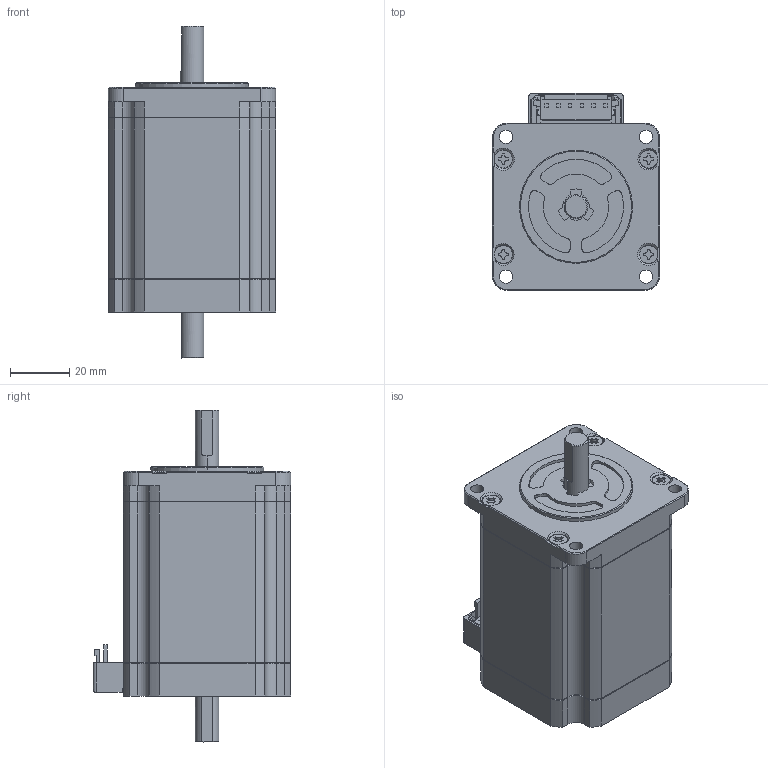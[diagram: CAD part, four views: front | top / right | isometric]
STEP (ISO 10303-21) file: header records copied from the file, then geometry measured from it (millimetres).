
FILE_DESCRIPTION (( 'STEP AP203' ), '1' );
FILE_NAME ('SM2563C10U11.STEP', '2021-05-07T07:36:13', ( '' ), ( '' ), 'SwSTEP 2.0', 'SolidWorks 2019', '' );
FILE_SCHEMA (( 'CONFIG_CONTROL_DESIGN' ));
Length unit declared in the file: millimetre
Products named in the file (11): Copy of SUBSTRATE^Copy of TERMINAL_01124248; SM2563C10U11; Copy of STATOR^01124248; Copy of TERMINAL^01124248; Copy of OUTPUT SHAFT^01124248; Copy of SCREW^01124248; Copy of CONNECTOR^Copy of TERMINAL_01124248; Copy of COUNTER SHAFT^01124248; Copy of FRONT COVER^01124248; Copy of INSULATOR_REAR^01124248_コネクタタイプ（10.1L）; Copy of REAR COVER^01124248
Assembly tree (13 placements, depth 3):
  SM2563C10U11
    Copy of FRONT COVER^01124248
    Copy of STATOR^01124248
    Copy of INSULATOR_REAR^01124248_コネクタタイプ（10.1L）
    Copy of TERMINAL^01124248
      Copy of SUBSTRATE^Copy of TERMINAL_01124248
      Copy of CONNECTOR^Copy of TERMINAL_01124248
    Copy of REAR COVER^01124248
    Copy of COUNTER SHAFT^01124248
    Copy of OUTPUT SHAFT^01124248
    Copy of SCREW^01124248  x4
Bounding box: 56.4 x 66.6 x 111.9 mm (x, y, z)
Volume: 237594.7 mm3; surface area: 45535.3 mm2
Topology: 12 solids, 12 shells, 630 faces, 1636 edges, 1056 vertices
Faces by surface type: plane 405, cylinder 162, cone 63
Entity records: 18401 total; most frequent: CARTESIAN_POINT 3138, ORIENTED_EDGE 2924, DIRECTION 2912, EDGE_CURVE 1462, LINE 1064, VECTOR 1064, VERTEX_POINT 942, AXIS2_PLACEMENT_3D 924
